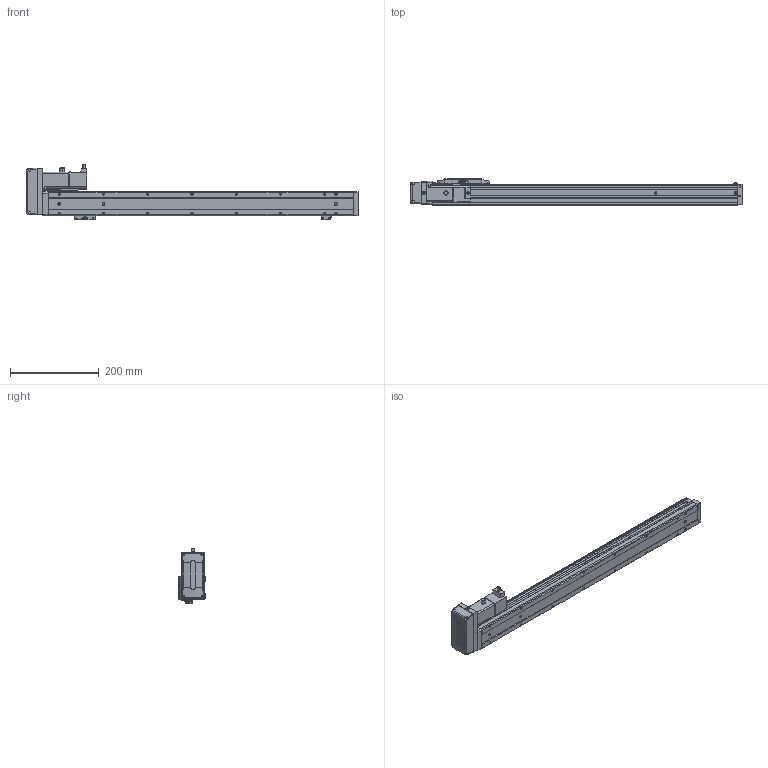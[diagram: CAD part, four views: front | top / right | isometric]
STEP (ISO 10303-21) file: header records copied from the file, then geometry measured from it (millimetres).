
FILE_DESCRIPTION (( 'STEP AP203' ), '1' );
FILE_NAME ('CTH5-L10-S550-BL-C10(¼ò).STEP', '2023-02-04T02:15:01', ( '' ), ( '' ), 'SwSTEP 2.0', 'SolidWorks 2018', '' );
FILE_SCHEMA (( 'CONFIG_CONTROL_DESIGN' ));
Length unit declared in the file: millimetre
Products named in the file (21): CTH5耜晚蹟隊-1; CTH5耜晚蹟隊; M3｡｣; CTH5ヶ耜啣(潠); CTH5綴耜啣; CTH5賑怢-2; CTH5-BL-T10_body5; CTH100W假蚾啣; 嫖萇羲壽郪磁1; hex nuts, style 1-grades ab gb_GB_FASTENER_NUT_SNAB1 M3-N; 100W萇儂; 内六角圆柱头螺钉M3-2; CTH5耜蚾欶; CTH5覜茼え; 葩璃 蚾饜极13^CTH8-L10-S50-BM-C40(潠)1; CTH5菁釱-L690; CTH5-L10-S550-BL-C10(潠); CTH嫖萇羲壽假蚾啣; CTH5耜蚾蟀諉啣(潠); PM-Y45; T10-p1
Assembly tree (35 placements, depth 3):
  CTH5-L10-S550-BL-C10(潠)
    CTH5綴耜啣
    CTH5賑怢-2
    CTH5ヶ耜啣(潠)
    CTH5菁釱-L690
    CTH5耜晚蹟隊  x2
    CTH5覜茼え
    CTH5耜晚蹟隊-1  x3
    CTH5耜蚾蟀諉啣(潠)
    CTH5耜蚾欶
      CTH5-BL-T10_body5
    100W萇儂
      T10-p1
    CTH100W假蚾啣
    葩璃 蚾饜极13^CTH8-L10-S50-BM-C40(潠)1  x2
      CTH嫖萇羲壽假蚾啣
      PM-Y45
      内六角圆柱头螺钉M3-2
      M3｡｣
      hex nuts, style 1-grades ab gb_GB_FASTENER_NUT_SNAB1 M3-N
    嫖萇羲壽郪磁1
      CTH嫖萇羲壽假蚾啣
      PM-Y45
      M3｡｣  x2
      内六角圆柱头螺钉M3-2  x2
      hex nuts, style 1-grades ab gb_GB_FASTENER_NUT_SNAB1 M3-N  x2
Bounding box: 750 x 60 x 126.31 mm (x, y, z)
Volume: 1868268.3 mm3; surface area: 268257.3 mm2
Topology: 38 solids, 38 shells, 1608 faces, 4043 edges, 2608 vertices
Faces by surface type: plane 881, cylinder 472, cone 199, torus 38, bspline 18
Entity records: 37728 total; most frequent: CARTESIAN_POINT 7013, DIRECTION 5985, ORIENTED_EDGE 5758, EDGE_CURVE 2879, AXIS2_PLACEMENT_3D 2063, LINE 1859, VECTOR 1859, VERTEX_POINT 1852
